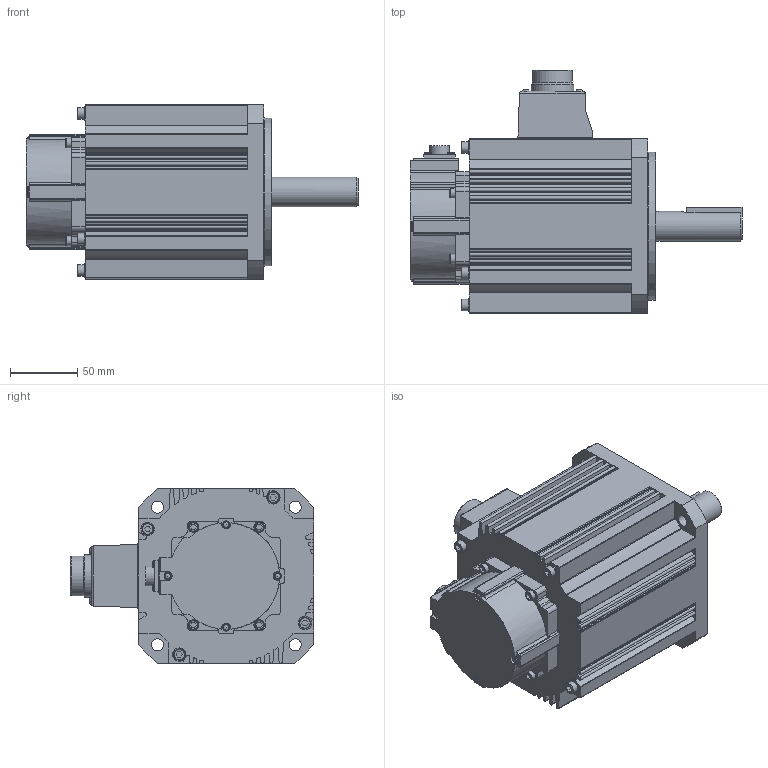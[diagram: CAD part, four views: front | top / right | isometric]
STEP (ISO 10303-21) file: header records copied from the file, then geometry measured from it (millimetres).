
FILE_DESCRIPTION( ( 'STEP AP214' ), '1' );
FILE_NAME( 'e:/temp/worker_119/temp/exporttempdir_4636_900_7hz5i/format_0/MHMF102L1H5 2JN2.stp', '2022-04-08T06:48:18', ( 'License CC BY-ND 4.0' ), ( 'CADENAS' ), ' ', 'PARTsolutions', ' ' );
FILE_SCHEMA( ( 'AUTOMOTIVE_DESIGN { 1 0 10303 214 1 1 1 1 }' ) );
Length unit declared in the file: millimetre
Products named in the file (2): MHMF102L1H5 2JN2; _MHMF102L1H5 _body
Assembly tree (1 placements, depth 2):
  MHMF102L1H5 2JN2
    _MHMF102L1H5 _body
Bounding box: 247 x 181 x 130 mm (x, y, z)
Volume: 2360388.6 mm3; surface area: 154425.7 mm2
Topology: 1 solids, 1 shells, 540 faces, 1458 edges, 949 vertices
Faces by surface type: plane 260, cylinder 229, cone 22, torus 13, sphere 12, bspline 4
Full cylindrical faces by diameter (mm): 2.459 x1, 7 x4, 8 x4, 8.5 x4, 9 x4, 10 x4, 14.8 x1, 22 x1, 29.75 x1, 31.9 x1, 34 x1, 38 x1, 45 x1, 102 x1, 110 x1
Entity records: 21077 total; most frequent: CARTESIAN_POINT 3218, DIRECTION 2907, ORIENTED_EDGE 2702, EDGE_CURVE 1351, AXIS2_PLACEMENT_3D 1053, VERTEX_POINT 930, LINE 801, VECTOR 801
